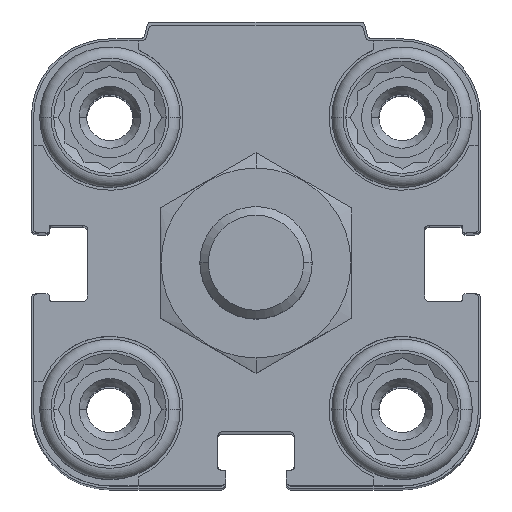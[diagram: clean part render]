
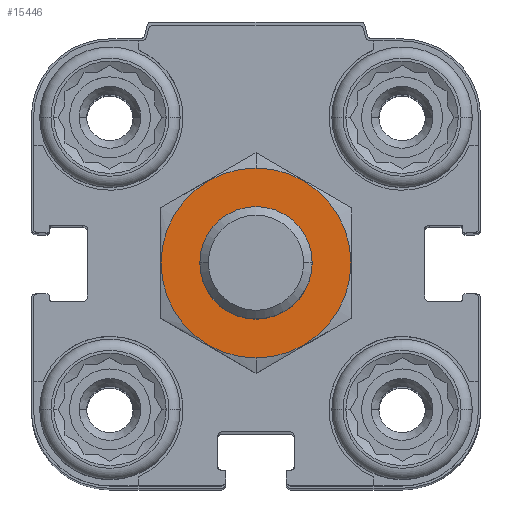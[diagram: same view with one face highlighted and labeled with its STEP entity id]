
A CAD part, top view. The second image highlights one B-rep face of the part: STEP entity #15446.
In plain terms, the highlighted planar face has unit normal (0, 0, 1).
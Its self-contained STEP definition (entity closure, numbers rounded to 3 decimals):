
#46 = CARTESIAN_POINT ( 'NONE',  ( 0., -8.45, 14.5 ) ) ;
#472 = FACE_OUTER_BOUND ( 'NONE', #1454, .T. ) ;
#752 = DIRECTION ( 'NONE',  ( 0., -1., 0. ) ) ;
#1448 = VERTEX_POINT ( 'NONE', #5829 ) ;
#1454 = EDGE_LOOP ( 'NONE', ( #14347, #4758 ) ) ;
#2519 = DIRECTION ( 'NONE',  ( 0., 0., -1. ) ) ;
#4758 = ORIENTED_EDGE ( 'NONE', *, *, #10411, .F. ) ;
#5102 = VERTEX_POINT ( 'NONE', #46 ) ;
#5829 = CARTESIAN_POINT ( 'NONE',  ( 0., 5., 14.5 ) ) ;
#5930 = EDGE_CURVE ( 'NONE', #10636, #1448, #10211, .T. ) ;
#6161 = DIRECTION ( 'NONE',  ( 0., 0., -1. ) ) ;
#6451 = ORIENTED_EDGE ( 'NONE', *, *, #17628, .T. ) ;
#6638 = FACE_BOUND ( 'NONE', #11140, .T. ) ;
#6824 = DIRECTION ( 'NONE',  ( 0., 0., -1. ) ) ;
#7767 = AXIS2_PLACEMENT_3D ( 'NONE', #15582, #12833, #15966 ) ;
#7810 = EDGE_CURVE ( 'NONE', #5102, #9767, #19303, .T. ) ;
#7842 = CIRCLE ( 'NONE', #19160, 5. ) ;
#7956 = DIRECTION ( 'NONE',  ( 0., -1., 0. ) ) ;
#9402 = AXIS2_PLACEMENT_3D ( 'NONE', #11401, #6824, #752 ) ;
#9767 = VERTEX_POINT ( 'NONE', #19157 ) ;
#10211 = CIRCLE ( 'NONE', #16026, 5. ) ;
#10411 = EDGE_CURVE ( 'NONE', #9767, #5102, #11023, .T. ) ;
#10480 = CARTESIAN_POINT ( 'NONE',  ( 0., -5., 14.5 ) ) ;
#10636 = VERTEX_POINT ( 'NONE', #10480 ) ;
#11023 = CIRCLE ( 'NONE', #9402, 8.45 ) ;
#11140 = EDGE_LOOP ( 'NONE', ( #6451, #15428 ) ) ;
#11401 = CARTESIAN_POINT ( 'NONE',  ( 0., 0., 14.5 ) ) ;
#11756 = DIRECTION ( 'NONE',  ( 0., -1., 0. ) ) ;
#12061 = CARTESIAN_POINT ( 'NONE',  ( 0., 0., 14.5 ) ) ;
#12833 = DIRECTION ( 'NONE',  ( 0., 0., -1. ) ) ;
#14347 = ORIENTED_EDGE ( 'NONE', *, *, #7810, .F. ) ;
#14436 = CARTESIAN_POINT ( 'NONE',  ( 0., 0., 14.5 ) ) ;
#15428 = ORIENTED_EDGE ( 'NONE', *, *, #5930, .T. ) ;
#15446 = ADVANCED_FACE ( 'NONE', ( #472, #6638 ), #19113, .F. ) ;
#15582 = CARTESIAN_POINT ( 'NONE',  ( 0., 0., 14.5 ) ) ;
#15756 = DIRECTION ( 'NONE',  ( 0., 0., -1. ) ) ;
#15966 = DIRECTION ( 'NONE',  ( 0., -1., 0. ) ) ;
#16026 = AXIS2_PLACEMENT_3D ( 'NONE', #20055, #6161, #18531 ) ;
#17628 = EDGE_CURVE ( 'NONE', #1448, #10636, #7842, .T. ) ;
#18531 = DIRECTION ( 'NONE',  ( 0., -1., 0. ) ) ;
#19113 = PLANE ( 'NONE',  #7767 ) ;
#19157 = CARTESIAN_POINT ( 'NONE',  ( 0., 8.45, 14.5 ) ) ;
#19160 = AXIS2_PLACEMENT_3D ( 'NONE', #12061, #2519, #11756 ) ;
#19303 = CIRCLE ( 'NONE', #19971, 8.45 ) ;
#19971 = AXIS2_PLACEMENT_3D ( 'NONE', #14436, #15756, #7956 ) ;
#20055 = CARTESIAN_POINT ( 'NONE',  ( 0., 0., 14.5 ) ) ;
